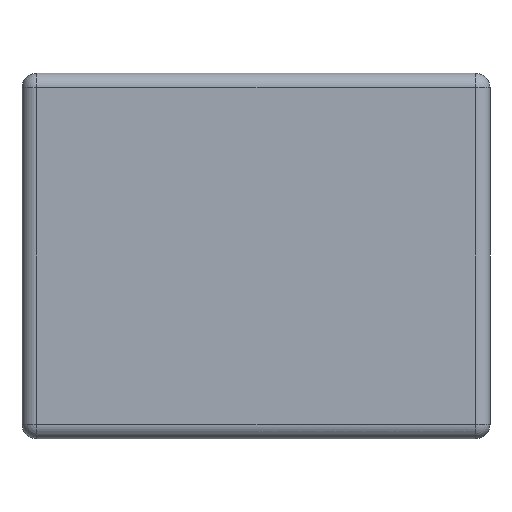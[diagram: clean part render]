
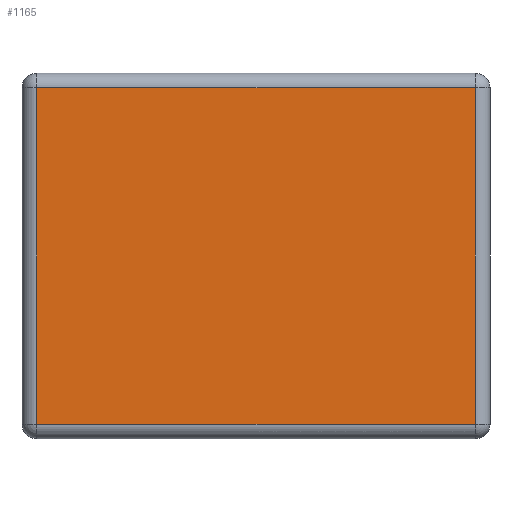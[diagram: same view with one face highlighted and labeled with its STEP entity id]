
A CAD part, left-side view. The second image highlights one B-rep face of the part: STEP entity #1165.
In plain terms, the highlighted planar face has unit normal (-1, 0, 0).
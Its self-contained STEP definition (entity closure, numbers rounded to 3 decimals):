
#186 = CYLINDRICAL_SURFACE('',#187,0.1);
#187 = AXIS2_PLACEMENT_3D('',#188,#189,#190);
#188 = CARTESIAN_POINT('',(-2.15,1.5,0.));
#189 = DIRECTION('',(0.,0.,1.));
#190 = DIRECTION('',(-0.,1.,0.));
#582 = VERTEX_POINT('',#583);
#583 = CARTESIAN_POINT('',(-2.25,1.5,0.1));
#603 = EDGE_CURVE('',#582,#604,#606,.T.);
#604 = VERTEX_POINT('',#605);
#605 = CARTESIAN_POINT('',(-2.25,1.5,2.4));
#606 = SURFACE_CURVE('',#607,(#611,#618),.PCURVE_S1.);
#607 = LINE('',#608,#609);
#608 = CARTESIAN_POINT('',(-2.25,1.5,0.));
#609 = VECTOR('',#610,1.);
#610 = DIRECTION('',(0.,0.,1.));
#611 = PCURVE('',#186,#612);
#612 = DEFINITIONAL_REPRESENTATION('',(#613),#617);
#613 = LINE('',#614,#615);
#614 = CARTESIAN_POINT('',(1.571,0.));
#615 = VECTOR('',#616,1.);
#616 = DIRECTION('',(0.,1.));
#617 = ( GEOMETRIC_REPRESENTATION_CONTEXT(2) 
PARAMETRIC_REPRESENTATION_CONTEXT() REPRESENTATION_CONTEXT('2D SPACE',''
  ) );
#618 = PCURVE('',#619,#624);
#619 = PLANE('',#620);
#620 = AXIS2_PLACEMENT_3D('',#621,#622,#623);
#621 = CARTESIAN_POINT('',(-2.25,-1.6,0.));
#622 = DIRECTION('',(-1.,0.,0.));
#623 = DIRECTION('',(0.,1.,0.));
#624 = DEFINITIONAL_REPRESENTATION('',(#625),#629);
#625 = LINE('',#626,#627);
#626 = CARTESIAN_POINT('',(3.1,0.));
#627 = VECTOR('',#628,1.);
#628 = DIRECTION('',(0.,-1.));
#629 = ( GEOMETRIC_REPRESENTATION_CONTEXT(2) 
PARAMETRIC_REPRESENTATION_CONTEXT() REPRESENTATION_CONTEXT('2D SPACE',''
  ) );
#1016 = CYLINDRICAL_SURFACE('',#1017,0.1);
#1017 = AXIS2_PLACEMENT_3D('',#1018,#1019,#1020);
#1018 = CARTESIAN_POINT('',(-2.15,-1.6,0.1));
#1019 = DIRECTION('',(0.,1.,0.));
#1020 = DIRECTION('',(-1.,0.,0.));
#1100 = CYLINDRICAL_SURFACE('',#1101,0.1);
#1101 = AXIS2_PLACEMENT_3D('',#1102,#1103,#1104);
#1102 = CARTESIAN_POINT('',(-2.15,-1.6,2.4));
#1103 = DIRECTION('',(0.,1.,0.));
#1104 = DIRECTION('',(-1.,0.,0.));
#1165 = ADVANCED_FACE('',(#1166),#619,.T.);
#1166 = FACE_BOUND('',#1167,.T.);
#1167 = EDGE_LOOP('',(#1168,#1198,#1219,#1220));
#1168 = ORIENTED_EDGE('',*,*,#1169,.T.);
#1169 = EDGE_CURVE('',#1170,#1172,#1174,.T.);
#1170 = VERTEX_POINT('',#1171);
#1171 = CARTESIAN_POINT('',(-2.25,-1.5,0.1));
#1172 = VERTEX_POINT('',#1173);
#1173 = CARTESIAN_POINT('',(-2.25,-1.5,2.4));
#1174 = SURFACE_CURVE('',#1175,(#1179,#1186),.PCURVE_S1.);
#1175 = LINE('',#1176,#1177);
#1176 = CARTESIAN_POINT('',(-2.25,-1.5,0.));
#1177 = VECTOR('',#1178,1.);
#1178 = DIRECTION('',(0.,0.,1.));
#1179 = PCURVE('',#619,#1180);
#1180 = DEFINITIONAL_REPRESENTATION('',(#1181),#1185);
#1181 = LINE('',#1182,#1183);
#1182 = CARTESIAN_POINT('',(0.1,0.));
#1183 = VECTOR('',#1184,1.);
#1184 = DIRECTION('',(0.,-1.));
#1185 = ( GEOMETRIC_REPRESENTATION_CONTEXT(2) 
PARAMETRIC_REPRESENTATION_CONTEXT() REPRESENTATION_CONTEXT('2D SPACE',''
  ) );
#1186 = PCURVE('',#1187,#1192);
#1187 = CYLINDRICAL_SURFACE('',#1188,0.1);
#1188 = AXIS2_PLACEMENT_3D('',#1189,#1190,#1191);
#1189 = CARTESIAN_POINT('',(-2.15,-1.5,0.));
#1190 = DIRECTION('',(0.,0.,1.));
#1191 = DIRECTION('',(-1.,0.,0.));
#1192 = DEFINITIONAL_REPRESENTATION('',(#1193),#1197);
#1193 = LINE('',#1194,#1195);
#1194 = CARTESIAN_POINT('',(0.,0.));
#1195 = VECTOR('',#1196,1.);
#1196 = DIRECTION('',(0.,1.));
#1197 = ( GEOMETRIC_REPRESENTATION_CONTEXT(2) 
PARAMETRIC_REPRESENTATION_CONTEXT() REPRESENTATION_CONTEXT('2D SPACE',''
  ) );
#1198 = ORIENTED_EDGE('',*,*,#1199,.T.);
#1199 = EDGE_CURVE('',#1172,#604,#1200,.T.);
#1200 = SURFACE_CURVE('',#1201,(#1205,#1212),.PCURVE_S1.);
#1201 = LINE('',#1202,#1203);
#1202 = CARTESIAN_POINT('',(-2.25,-1.6,2.4));
#1203 = VECTOR('',#1204,1.);
#1204 = DIRECTION('',(0.,1.,0.));
#1205 = PCURVE('',#619,#1206);
#1206 = DEFINITIONAL_REPRESENTATION('',(#1207),#1211);
#1207 = LINE('',#1208,#1209);
#1208 = CARTESIAN_POINT('',(0.,-2.4));
#1209 = VECTOR('',#1210,1.);
#1210 = DIRECTION('',(1.,0.));
#1211 = ( GEOMETRIC_REPRESENTATION_CONTEXT(2) 
PARAMETRIC_REPRESENTATION_CONTEXT() REPRESENTATION_CONTEXT('2D SPACE',''
  ) );
#1212 = PCURVE('',#1100,#1213);
#1213 = DEFINITIONAL_REPRESENTATION('',(#1214),#1218);
#1214 = LINE('',#1215,#1216);
#1215 = CARTESIAN_POINT('',(0.,0.));
#1216 = VECTOR('',#1217,1.);
#1217 = DIRECTION('',(0.,1.));
#1218 = ( GEOMETRIC_REPRESENTATION_CONTEXT(2) 
PARAMETRIC_REPRESENTATION_CONTEXT() REPRESENTATION_CONTEXT('2D SPACE',''
  ) );
#1219 = ORIENTED_EDGE('',*,*,#603,.F.);
#1220 = ORIENTED_EDGE('',*,*,#1221,.F.);
#1221 = EDGE_CURVE('',#1170,#582,#1222,.T.);
#1222 = SURFACE_CURVE('',#1223,(#1227,#1234),.PCURVE_S1.);
#1223 = LINE('',#1224,#1225);
#1224 = CARTESIAN_POINT('',(-2.25,-1.6,0.1));
#1225 = VECTOR('',#1226,1.);
#1226 = DIRECTION('',(0.,1.,0.));
#1227 = PCURVE('',#619,#1228);
#1228 = DEFINITIONAL_REPRESENTATION('',(#1229),#1233);
#1229 = LINE('',#1230,#1231);
#1230 = CARTESIAN_POINT('',(0.,-0.1));
#1231 = VECTOR('',#1232,1.);
#1232 = DIRECTION('',(1.,0.));
#1233 = ( GEOMETRIC_REPRESENTATION_CONTEXT(2) 
PARAMETRIC_REPRESENTATION_CONTEXT() REPRESENTATION_CONTEXT('2D SPACE',''
  ) );
#1234 = PCURVE('',#1016,#1235);
#1235 = DEFINITIONAL_REPRESENTATION('',(#1236),#1240);
#1236 = LINE('',#1237,#1238);
#1237 = CARTESIAN_POINT('',(-0.,0.));
#1238 = VECTOR('',#1239,1.);
#1239 = DIRECTION('',(-0.,1.));
#1240 = ( GEOMETRIC_REPRESENTATION_CONTEXT(2) 
PARAMETRIC_REPRESENTATION_CONTEXT() REPRESENTATION_CONTEXT('2D SPACE',''
  ) );
